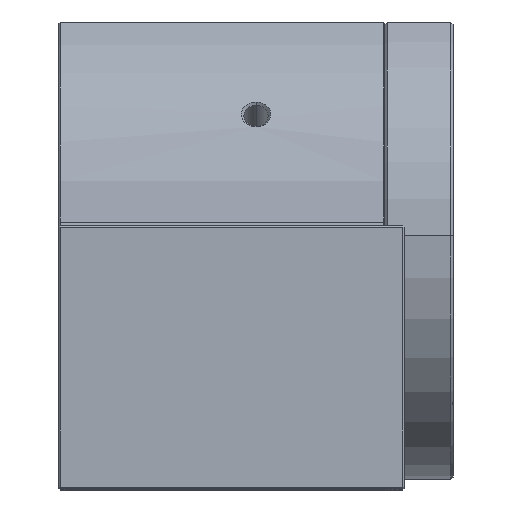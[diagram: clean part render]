
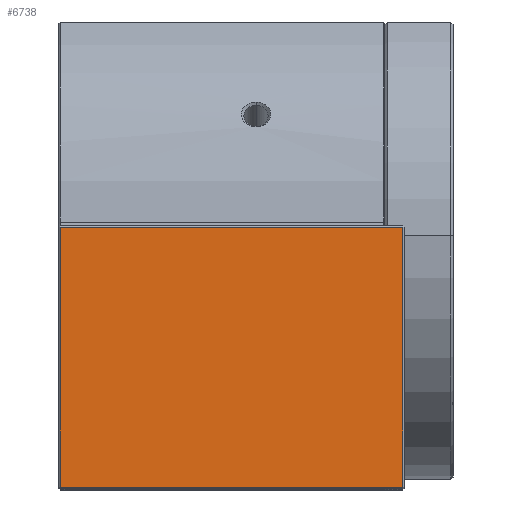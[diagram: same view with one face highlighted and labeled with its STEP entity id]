
A CAD part, top view. The second image highlights one B-rep face of the part: STEP entity #6738.
In plain terms, the highlighted planar face has unit normal (0, 0, 1).
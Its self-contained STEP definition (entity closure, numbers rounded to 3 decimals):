
#617 = CARTESIAN_POINT ( 'NONE',  ( -66.7, -51.7, 80. ) ) ;
#618 = CARTESIAN_POINT ( 'NONE',  ( -66.7, 1.7, 80. ) ) ;
#619 = DIRECTION ( 'NONE',  ( -1., 0., 0. ) ) ;
#620 = VECTOR ( 'NONE', #619, 1000. ) ;
#621 = CARTESIAN_POINT ( 'NONE',  ( -67., 1.7, 80. ) ) ;
#622 = LINE ( 'NONE', #621, #620 ) ;
#623 = CARTESIAN_POINT ( 'NONE',  ( 3.7, 1.7, 80. ) ) ;
#624 = CARTESIAN_POINT ( 'NONE',  ( 3.7, -51.7, 80. ) ) ;
#625 = DIRECTION ( 'NONE',  ( 0., 1., 0. ) ) ;
#626 = VECTOR ( 'NONE', #625, 1000. ) ;
#627 = CARTESIAN_POINT ( 'NONE',  ( 3.7, 2., 80. ) ) ;
#628 = DIRECTION ( 'NONE',  ( 1., 0., 0. ) ) ;
#629 = DIRECTION ( 'NONE',  ( 0., 0., 1. ) ) ;
#630 = CARTESIAN_POINT ( 'NONE',  ( -67., 0., 80. ) ) ;
#631 = AXIS2_PLACEMENT_3D ( 'NONE', #630, #629, #628 ) ;
#632 = PLANE ( 'NONE',  #631 ) ;
#633 = LINE ( 'NONE', #627, #626 ) ;
#634 = FACE_OUTER_BOUND ( 'NONE', #6739, .T. ) ;
#716 = DIRECTION ( 'NONE',  ( 1., 0., 0. ) ) ;
#717 = VECTOR ( 'NONE', #716, 1000. ) ;
#718 = CARTESIAN_POINT ( 'NONE',  ( -67., -51.7, 80. ) ) ;
#719 = LINE ( 'NONE', #718, #717 ) ;
#720 = DIRECTION ( 'NONE',  ( 0., -1., 0. ) ) ;
#721 = VECTOR ( 'NONE', #720, 1000. ) ;
#722 = CARTESIAN_POINT ( 'NONE',  ( -66.7, -52., 80. ) ) ;
#726 = LINE ( 'NONE', #722, #721 ) ;
#6738 = ADVANCED_FACE ( 'NONE', ( #634 ), #632, .T. ) ;
#6739 = EDGE_LOOP ( 'NONE', ( #6740, #6744, #6802, #6804 ) ) ;
#6740 = ORIENTED_EDGE ( 'NONE', *, *, #6741, .T. ) ;
#6741 = EDGE_CURVE ( 'NONE', #6742, #6743, #633, .T. ) ;
#6742 = VERTEX_POINT ( 'NONE', #624 ) ;
#6743 = VERTEX_POINT ( 'NONE', #623 ) ;
#6744 = ORIENTED_EDGE ( 'NONE', *, *, #6745, .T. ) ;
#6745 = EDGE_CURVE ( 'NONE', #6743, #6746, #622, .T. ) ;
#6746 = VERTEX_POINT ( 'NONE', #618 ) ;
#6747 = VERTEX_POINT ( 'NONE', #617 ) ;
#6802 = ORIENTED_EDGE ( 'NONE', *, *, #6803, .T. ) ;
#6803 = EDGE_CURVE ( 'NONE', #6746, #6747, #726, .T. ) ;
#6804 = ORIENTED_EDGE ( 'NONE', *, *, #6805, .T. ) ;
#6805 = EDGE_CURVE ( 'NONE', #6747, #6742, #719, .T. ) ;
